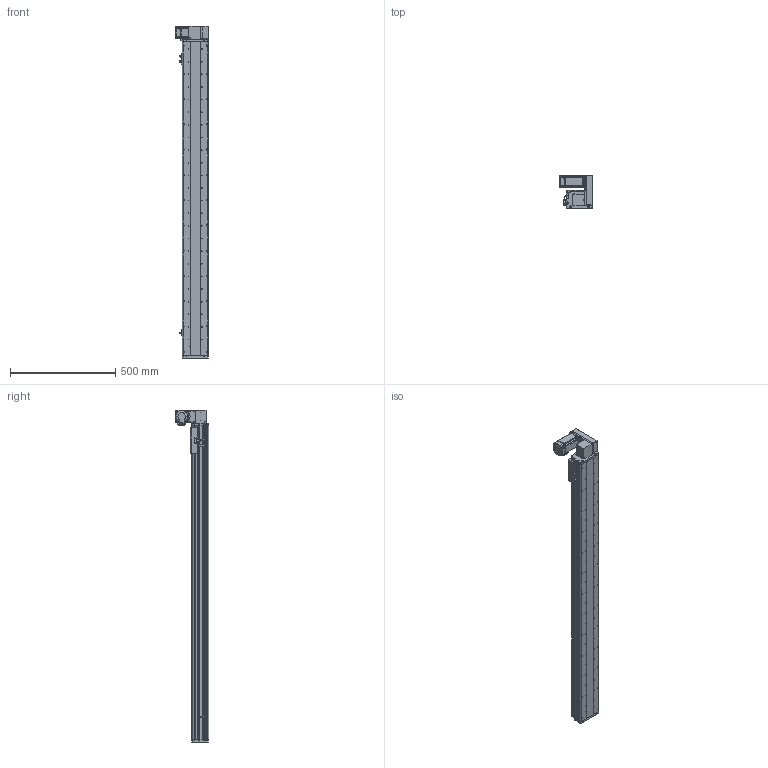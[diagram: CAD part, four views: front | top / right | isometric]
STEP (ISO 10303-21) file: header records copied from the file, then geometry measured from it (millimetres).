
FILE_DESCRIPTION (( 'STEP AP214' ), '1' );
FILE_NAME ('KSD125B-S1300-MLU-CM.STEP', '2017-10-21T03:35:54', ( '微软用户' ), ( '微软中国' ), 'SwSTEP 2.0', 'SolidWorks 2014', '' );
FILE_SCHEMA (( 'AUTOMOTIVE_DESIGN' ));
Length unit declared in the file: millimetre
Products named in the file (17): KSD125模组同步带-防撞垫2; 覜茼え68遵圉猾敕; U倰嫖萇假蚾璃; U倰嫖萇EEㄜSX672; KSD125模组同步带-防撞垫1; 前端板-125宽模组同步带; 125模组同步带-尾端板1; KSD125模组同步带-滑动座1; KSD125B-S1300-MLU-CM; 悵誘欶奻狟殏; 100宽马达安装板连板上下折丝杆同步带; HTPA30S3M150_A_H6_a佪裝蚚; HTPA30S3M150_A_H6_a萇儂蚚; 100宽马达安装板同步带左; KSD125模组1300行程同步带-防尘盖; 125模组1300行程同步带-底板; MHMD042G1CA_2_03
Assembly tree (20 placements, depth 2):
  KSD125B-S1300-MLU-CM
    KSD125模组同步带-滑动座1
    125模组同步带-尾端板1
    前端板-125宽模组同步带
    KSD125模组同步带-防撞垫1
    U倰嫖萇EEㄜSX672  x3
    U倰嫖萇假蚾璃  x3
    覜茼え68遵圉猾敕
    KSD125模组同步带-防撞垫2
    MHMD042G1CA_2_03
    125模组1300行程同步带-底板
    KSD125模组1300行程同步带-防尘盖
    100宽马达安装板同步带左
    HTPA30S3M150_A_H6_a萇儂蚚
    HTPA30S3M150_A_H6_a佪裝蚚
    100宽马达安装板连板上下折丝杆同步带
    悵誘欶奻狟殏
Bounding box: 155 x 157.5 x 1577 mm (x, y, z)
Volume: 4725648.6 mm3; surface area: 1573319.4 mm2
Topology: 19 solids, 22 shells, 2355 faces, 6835 edges, 4518 vertices
Faces by surface type: cylinder 1496, plane 732, cone 105, bspline 22
Entity records: 84241 total; most frequent: CARTESIAN_POINT 16603, DIRECTION 13080, ORIENTED_EDGE 12190, EDGE_CURVE 6173, AXIS2_PLACEMENT_3D 5071, VERTEX_POINT 4110, LINE 2938, VECTOR 2938
